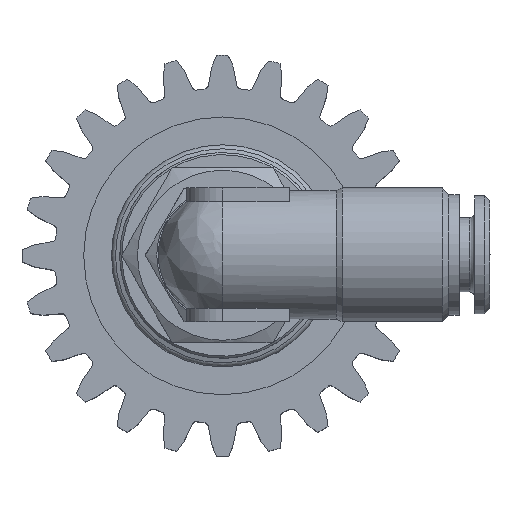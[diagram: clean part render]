
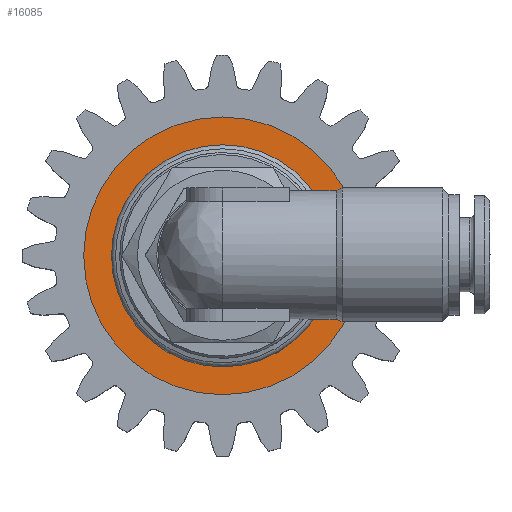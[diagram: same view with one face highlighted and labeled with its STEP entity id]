
A CAD part, top view. The second image highlights one B-rep face of the part: STEP entity #16085.
In plain terms, the highlighted planar face has unit normal (0, 0, 1) as drawn and (0, 1, 0) by its records, which use the part's own axes.
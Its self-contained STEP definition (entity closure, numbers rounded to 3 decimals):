
#1827 = AXIS2_PLACEMENT_3D ( 'NONE', #29008, #24589, #26638 ) ;
#2356 = AXIS2_PLACEMENT_3D ( 'NONE', #10677, #30348, #13350 ) ;
#4131 = DIRECTION ( 'NONE',  ( 0., 0., 1. ) ) ;
#5572 = FACE_OUTER_BOUND ( 'NONE', #26174, .T. ) ;
#8983 = VERTEX_POINT ( 'NONE', #10765 ) ;
#9018 = DIRECTION ( 'NONE',  ( 0., 1., 0. ) ) ;
#10424 = PLANE ( 'NONE',  #1827 ) ;
#10677 = CARTESIAN_POINT ( 'NONE',  ( 0., 0.6, 0. ) ) ;
#10765 = CARTESIAN_POINT ( 'NONE',  ( 0., 0.6, 10.8 ) ) ;
#11126 = ORIENTED_EDGE ( 'NONE', *, *, #27672, .F. ) ;
#11753 = AXIS2_PLACEMENT_3D ( 'NONE', #25702, #9018, #4131 ) ;
#13350 = DIRECTION ( 'NONE',  ( 0., 0., 1. ) ) ;
#16085 = ADVANCED_FACE ( 'NONE', ( #19377, #5572 ), #10424, .F. ) ;
#16660 = ORIENTED_EDGE ( 'NONE', *, *, #20125, .T. ) ;
#19377 = FACE_BOUND ( 'NONE', #20013, .T. ) ;
#20013 = EDGE_LOOP ( 'NONE', ( #11126 ) ) ;
#20125 = EDGE_CURVE ( 'NONE', #29183, #29183, #26482, .T. ) ;
#21614 = CARTESIAN_POINT ( 'NONE',  ( 0., 0.6, 13.5 ) ) ;
#22285 = CIRCLE ( 'NONE', #11753, 10.8 ) ;
#24589 = DIRECTION ( 'NONE',  ( 0., -1., 0. ) ) ;
#25702 = CARTESIAN_POINT ( 'NONE',  ( 0., 0.6, 0. ) ) ;
#26174 = EDGE_LOOP ( 'NONE', ( #16660 ) ) ;
#26482 = CIRCLE ( 'NONE', #2356, 13.5 ) ;
#26638 = DIRECTION ( 'NONE',  ( 0., 0., -1. ) ) ;
#27672 = EDGE_CURVE ( 'NONE', #8983, #8983, #22285, .T. ) ;
#29008 = CARTESIAN_POINT ( 'NONE',  ( 13.5, 0.6, 0. ) ) ;
#29183 = VERTEX_POINT ( 'NONE', #21614 ) ;
#30348 = DIRECTION ( 'NONE',  ( 0., 1., 0. ) ) ;
